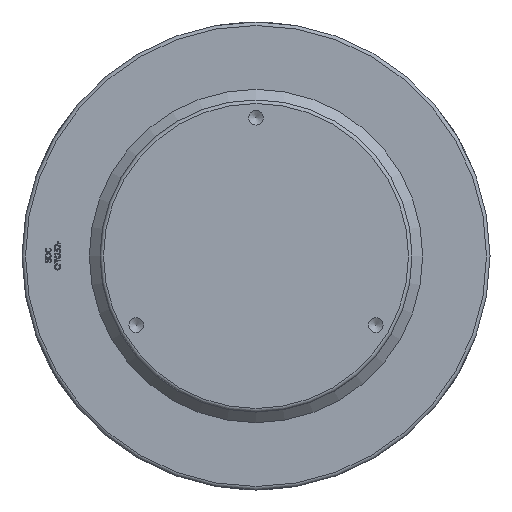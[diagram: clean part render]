
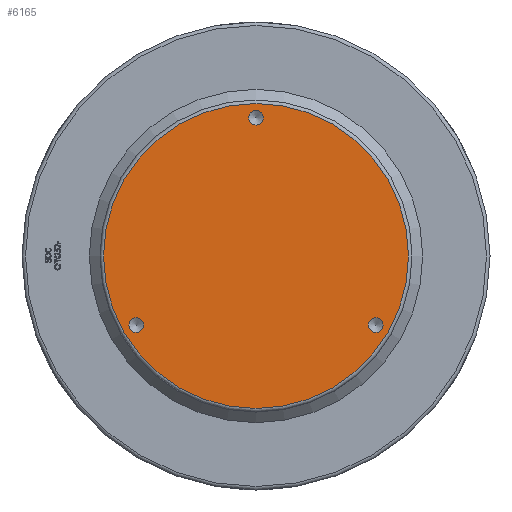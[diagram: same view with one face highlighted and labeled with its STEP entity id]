
A CAD part, front view. The second image highlights one B-rep face of the part: STEP entity #6165.
In plain terms, the highlighted planar face has unit normal (0, -1, 0) as drawn and (0, 1, 0) by its records, which use the part's own axes.
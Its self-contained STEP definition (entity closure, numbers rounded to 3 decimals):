
#1698=PLANE('',#6487);
#1787=FACE_BOUND('',#2368,.T.);
#1788=FACE_BOUND('',#2369,.T.);
#1789=FACE_BOUND('',#2370,.T.);
#2004=FACE_OUTER_BOUND('',#2367,.T.);
#2367=EDGE_LOOP('',(#5043));
#2368=EDGE_LOOP('',(#5044));
#2369=EDGE_LOOP('',(#5045));
#2370=EDGE_LOOP('',(#5046));
#2589=CIRCLE('',#6403,10.376);
#2591=CIRCLE('',#6407,10.376);
#2593=CIRCLE('',#6411,10.376);
#2595=CIRCLE('',#6485,215.);
#2615=VERTEX_POINT('',#7550);
#2617=VERTEX_POINT('',#7556);
#2619=VERTEX_POINT('',#7562);
#2915=VERTEX_POINT('',#9591);
#3239=EDGE_CURVE('',#2615,#2615,#2589,.T.);
#3241=EDGE_CURVE('',#2617,#2617,#2591,.T.);
#3243=EDGE_CURVE('',#2619,#2619,#2593,.T.);
#3686=EDGE_CURVE('',#2915,#2915,#2595,.T.);
#5043=ORIENTED_EDGE('',*,*,#3686,.F.);
#5044=ORIENTED_EDGE('',*,*,#3239,.T.);
#5045=ORIENTED_EDGE('',*,*,#3241,.T.);
#5046=ORIENTED_EDGE('',*,*,#3243,.T.);
#6165=ADVANCED_FACE('',(#2004,#1787,#1788,#1789),#1698,.T.);
#6403=AXIS2_PLACEMENT_3D('',#7551,#6613,#6614);
#6407=AXIS2_PLACEMENT_3D('',#7557,#6621,#6622);
#6411=AXIS2_PLACEMENT_3D('',#7563,#6629,#6630);
#6485=AXIS2_PLACEMENT_3D('',#9592,#7044,#7045);
#6487=AXIS2_PLACEMENT_3D('',#9595,#7048,#7049);
#6613=DIRECTION('center_axis',(0.,-1.,0.));
#6614=DIRECTION('ref_axis',(-0.5,0.,-0.866));
#6621=DIRECTION('center_axis',(0.,-1.,0.));
#6622=DIRECTION('ref_axis',(-0.5,0.,0.866));
#6629=DIRECTION('center_axis',(0.,-1.,0.));
#6630=DIRECTION('ref_axis',(1.,0.,0.));
#7044=DIRECTION('center_axis',(0.,-1.,0.));
#7045=DIRECTION('ref_axis',(-1.,0.,0.));
#7048=DIRECTION('center_axis',(0.,1.,0.));
#7049=DIRECTION('ref_axis',(0.,0.,1.));
#7550=CARTESIAN_POINT('',(163.687,399.,-106.486));
#7551=CARTESIAN_POINT('Origin',(168.875,399.,-97.5));
#7556=CARTESIAN_POINT('',(-174.063,399.,-88.514));
#7557=CARTESIAN_POINT('Origin',(-168.875,399.,-97.5));
#7562=CARTESIAN_POINT('',(10.376,399.,195.));
#7563=CARTESIAN_POINT('Origin',(0.,399.,195.));
#9591=CARTESIAN_POINT('',(215.,399.,0.));
#9592=CARTESIAN_POINT('Origin',(0.,399.,0.));
#9595=CARTESIAN_POINT('Origin',(220.,399.,0.));
